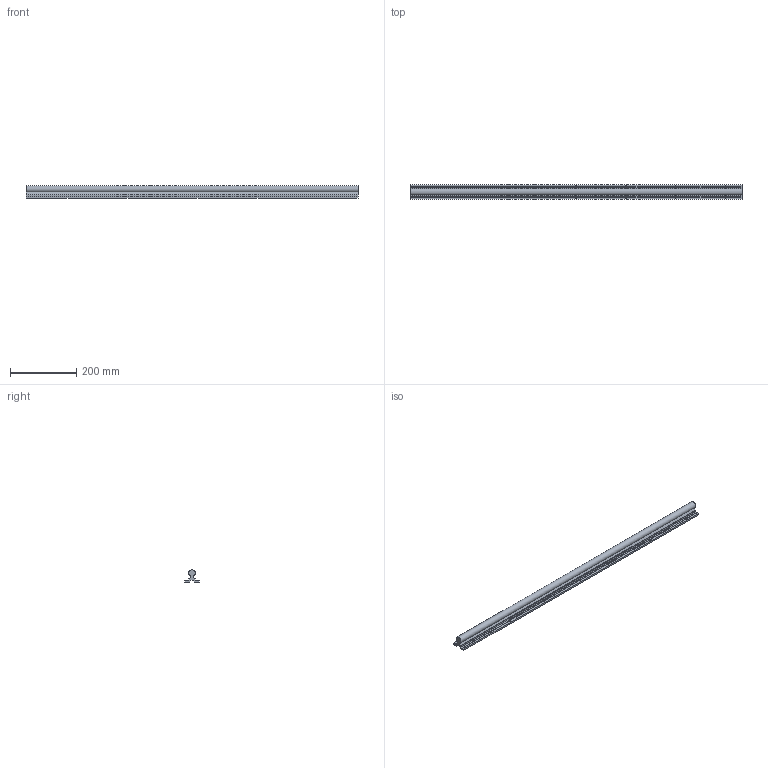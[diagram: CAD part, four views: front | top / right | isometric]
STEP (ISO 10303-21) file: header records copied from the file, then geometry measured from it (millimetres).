
FILE_DESCRIPTION(/* description */ (''),/* implementation_level */ '2;1');
FILE_NAME(/* name */ 'C:\Users\David\Desktop\stepFiles\Profilfuehrung\LFS20x1000.stp',/* time_stamp */ '2018-06-24T15:21:57+02:00',/* author */ ('Buskamp'),/* organization */ (''),/* preprocessor_version */ 'ST-DEVELOPER v17',/* originating_system */ 'Autodesk Inventor 2019',/* authorisation */ '');
FILE_SCHEMA (('AUTOMOTIVE_DESIGN { 1 0 10303 214 3 1 1 }'));
Length unit declared in the file: millimetre
Products named in the file (1): Linearführung D20xvariabel
Bounding box: 1000 x 45 x 37 mm (x, y, z)
Volume: 646028.2 mm3; surface area: 177870.7 mm2
Topology: 1 solids, 1 shells, 98 faces, 312 edges, 202 vertices
Faces by surface type: plane 67, cone 16, cylinder 15
Full cylindrical faces by diameter (mm): 5.5 x14
Entity records: 3531 total; most frequent: CARTESIAN_POINT 677, ORIENTED_EDGE 624, DIRECTION 594, EDGE_CURVE 312, AXIS2_PLACEMENT_3D 215, VERTEX_POINT 202, LINE 164, VECTOR 164
